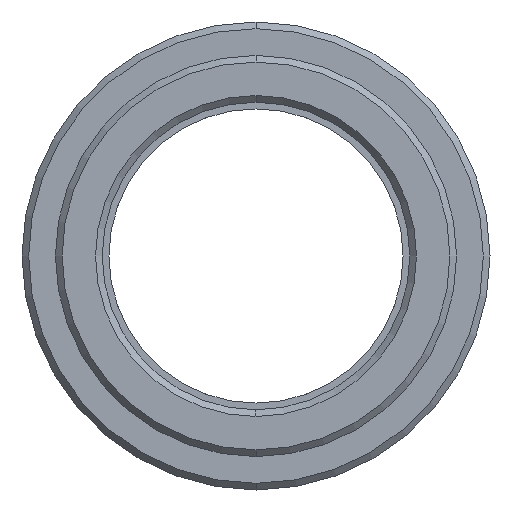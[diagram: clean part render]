
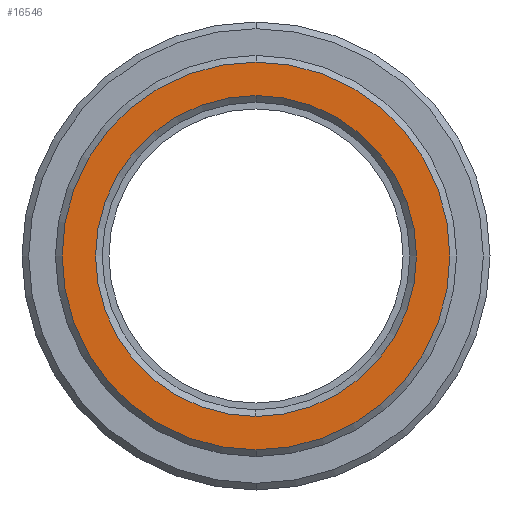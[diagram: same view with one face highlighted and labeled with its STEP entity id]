
A CAD part, left-side view. The second image highlights one B-rep face of the part: STEP entity #16546.
In plain terms, the highlighted planar face has unit normal (-1, 0, 0).
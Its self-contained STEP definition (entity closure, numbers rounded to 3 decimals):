
#6578=CARTESIAN_POINT('',(-8.,0.,0.));
#6579=DIRECTION('',(1.,0.,0.));
#6580=DIRECTION('',(0.,0.,1.));
#6581=AXIS2_PLACEMENT_3D('',#6578,#6579,#6580);
#6583=CARTESIAN_POINT('',(-8.,0.,
0.));
#6584=DIRECTION('',(1.,0.,0.));
#6585=DIRECTION('',(0.,0.,-1.));
#6586=AXIS2_PLACEMENT_3D('',#6583,#6584,#6585);
#6588=CARTESIAN_POINT('',(-8.,0.,0.));
#6589=DIRECTION('',(1.,0.,0.));
#6590=DIRECTION('',(0.,0.,1.));
#6591=AXIS2_PLACEMENT_3D('',#6588,#6589,#6590);
#6593=CARTESIAN_POINT('',(-8.,0.,0.));
#6594=DIRECTION('',(1.,0.,0.));
#6595=DIRECTION('',(0.,0.,-1.));
#6596=AXIS2_PLACEMENT_3D('',#6593,#6594,#6595);
#13968=CARTESIAN_POINT('',(-8.,0.,12.));
#13969=CARTESIAN_POINT('',(-8.,0.,-12.));
#13970=VERTEX_POINT('',#13968);
#13971=VERTEX_POINT('',#13969);
#13976=CARTESIAN_POINT('',(-8.,0.,14.5));
#13977=CARTESIAN_POINT('',(-8.,0.,-14.5));
#13978=VERTEX_POINT('',#13976);
#13979=VERTEX_POINT('',#13977);
#16530=CARTESIAN_POINT('',(-8.,0.,0.));
#16531=DIRECTION('',(1.,0.,0.));
#16532=DIRECTION('',(0.,0.,1.));
#16533=AXIS2_PLACEMENT_3D('',#16530,#16531,#16532);
#16534=PLANE('',#16533);
#16536=ORIENTED_EDGE('',*,*,#16535,.T.);
#16538=ORIENTED_EDGE('',*,*,#16537,.T.);
#16539=EDGE_LOOP('',(#16536,#16538));
#16540=FACE_OUTER_BOUND('',#16539,.F.);
#16541=ORIENTED_EDGE('',*,*,#16520,.F.);
#16543=ORIENTED_EDGE('',*,*,#16542,.F.);
#16544=EDGE_LOOP('',(#16541,#16543));
#16545=FACE_BOUND('',#16544,.F.);
#16546=ADVANCED_FACE('',(#16540,#16545),#16534,.F.);
#6582=CIRCLE('',#6581,14.5);
#6587=CIRCLE('',#6586,14.5);
#6592=CIRCLE('',#6591,12.);
#6597=CIRCLE('',#6596,12.);
#16520=EDGE_CURVE('',#13970,#13971,#6592,.T.);
#16535=EDGE_CURVE('',#13978,#13979,#6582,.T.);
#16537=EDGE_CURVE('',#13979,#13978,#6587,.T.);
#16542=EDGE_CURVE('',#13971,#13970,#6597,.T.);
